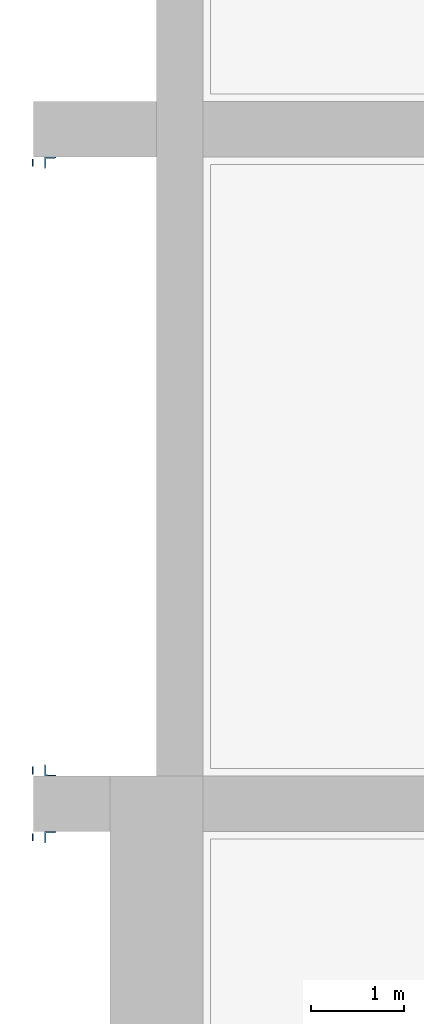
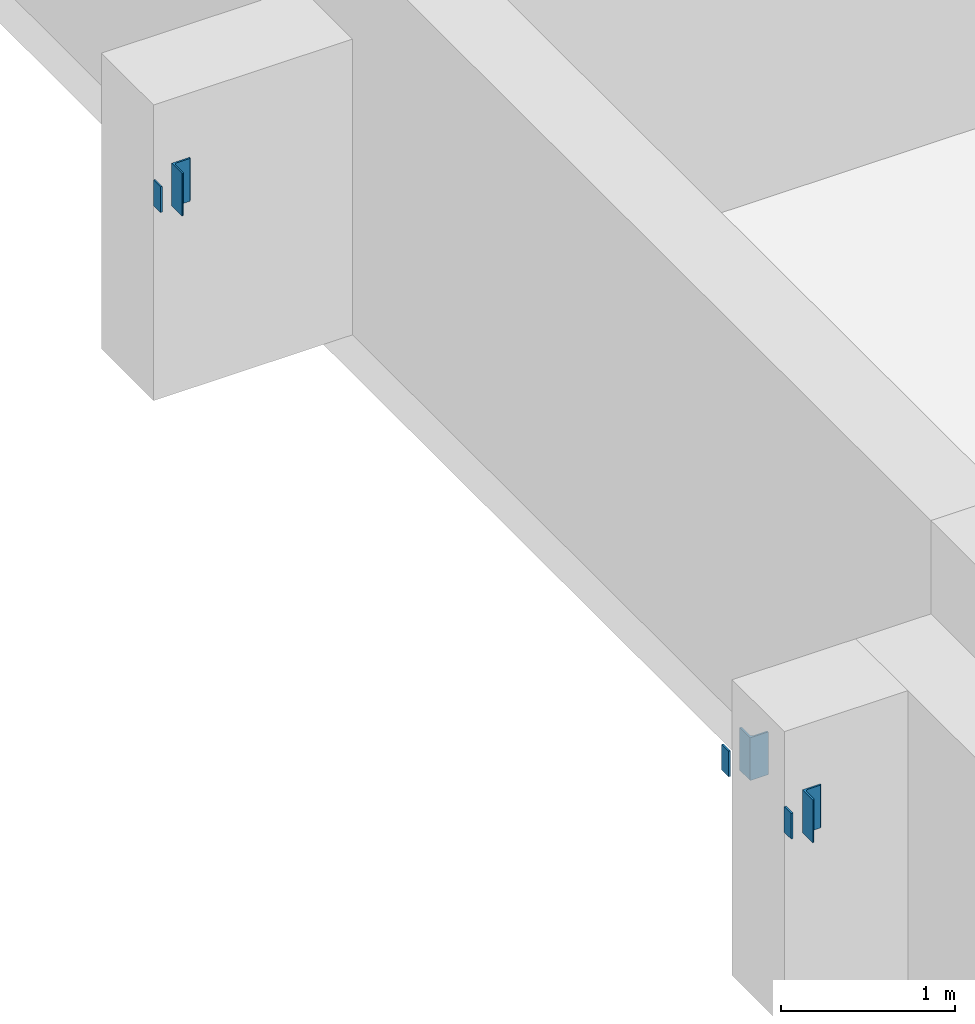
# One storey, part 8 of 22: 6 columns.
"""IFC2X3 building model written with IfcOpenShell, lengths in millimetres."""

from ifc_helpers import new_model, entity, si_unit, converted_unit, derived_unit, direction, frame, frame_2d, origin, origin_2d_with_axis, place, context, subcontext, project, spatial, polyline, circle_curve, parameter, trimmed, segment, composite_curve, rectangle, outline, extrude, source, transform, mapped, material, type_object, type_shapes, element, save


model = new_model("IFC2X3")

# Units and contexts
model_context = context("Model", 3, precision=0.01, world=origin(), true_north=direction((6.12303176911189e-17, 1.0)))
body_context = subcontext(model_context, "Body", "Model", "MODEL_VIEW")
ifc_project = project(units=[si_unit("LENGTHUNIT", "METRE", prefix="MILLI"), si_unit("AREAUNIT", "SQUARE_METRE"), si_unit("VOLUMEUNIT", "CUBIC_METRE"), converted_unit("PLANEANGLEUNIT", "DEGREE", entity("IfcRatioMeasure", 0.0174532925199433), si_unit("PLANEANGLEUNIT", "RADIAN"), dimensions=[0, 0, 0, 0, 0, 0, 0]), si_unit("MASSUNIT", "GRAM", prefix="KILO"), derived_unit("MASSDENSITYUNIT", [(si_unit("MASSUNIT", "GRAM", prefix="KILO"), 1), (si_unit("LENGTHUNIT", "METRE"), -3)]), si_unit("TIMEUNIT", "SECOND"), si_unit("FREQUENCYUNIT", "HERTZ"), si_unit("THERMODYNAMICTEMPERATUREUNIT", "DEGREE_CELSIUS"), derived_unit("THERMALTRANSMITTANCEUNIT", [(si_unit("MASSUNIT", "GRAM", prefix="KILO"), 1), (si_unit("THERMODYNAMICTEMPERATUREUNIT", "KELVIN"), -1), (si_unit("TIMEUNIT", "SECOND"), -3)]), derived_unit("VOLUMETRICFLOWRATEUNIT", [(si_unit("LENGTHUNIT", "METRE"), 3), (si_unit("TIMEUNIT", "SECOND"), -1)]), si_unit("ELECTRICCURRENTUNIT", "AMPERE"), si_unit("ELECTRICVOLTAGEUNIT", "VOLT"), si_unit("POWERUNIT", "WATT"), si_unit("FORCEUNIT", "NEWTON", prefix="KILO"), si_unit("ILLUMINANCEUNIT", "LUX"), si_unit("LUMINOUSFLUXUNIT", "LUMEN"), si_unit("LUMINOUSINTENSITYUNIT", "CANDELA"), derived_unit("USERDEFINED", [(si_unit("MASSUNIT", "GRAM", prefix="KILO"), -1), (si_unit("LENGTHUNIT", "METRE"), -2), (si_unit("TIMEUNIT", "SECOND"), 3), (si_unit("LUMINOUSFLUXUNIT", "LUMEN"), 1)]), derived_unit("LINEARVELOCITYUNIT", [(si_unit("LENGTHUNIT", "METRE"), 1), (si_unit("TIMEUNIT", "SECOND"), -1)]), si_unit("PRESSUREUNIT", "PASCAL"), derived_unit("USERDEFINED", [(si_unit("LENGTHUNIT", "METRE"), -2), (si_unit("MASSUNIT", "GRAM", prefix="KILO"), 1), (si_unit("TIMEUNIT", "SECOND"), -2)])], contexts=[model_context])

# Site, building, storey
site_placement = place(None, origin())
site = spatial("IfcSite", under=ifc_project, at=site_placement, Name="Default", CompositionType="ELEMENT")
building_placement = place(site_placement, origin())
building = spatial("IfcBuilding", under=site, at=building_placement, Name="niet gebruiken", CompositionType="ELEMENT")
storey_placement = place(building_placement, frame((0.0, 0.0, 15000.0)))
storey = spatial("IfcBuildingStorey", under=building, at=storey_placement, Name="04 vierde verdieping", CompositionType="ELEMENT", Elevation=15000.0)

# Columns
ifc_material = material(Name="NLRS_h2_staal")
column_type_1 = type_object("IfcColumnType", Name="kolomgelijzijdig hoekprofiel LEQU_120x120x12_!", PredefinedType="COLUMN", material=ifc_material)
shared_shape_1 = source(origin(), body_context, "Body", "SweptSolid", [
    extrude(outline(composite_curve([segment(polyline([(-74.6666666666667, -45.3333333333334), (45.3333333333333, -45.3333333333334)]), True, "CONTINUOUS"), segment(polyline([(45.3333333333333, -45.3333333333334), (45.3333333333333, 74.6666666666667)]), True, "CONTINUOUS"), segment(polyline([(45.3333333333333, 74.6666666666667), (41.3333333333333, 74.6666666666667)]), True, "CONTINUOUS"), segment(trimmed(circle_curve(frame_2d((41.3333333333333, 66.6666666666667), x_axis=(0.0, 1.0)), 8.0), [parameter(0.0)], [parameter(90.0)], True, "PARAMETER"), True, "CONTINUOUS"), segment(polyline([(33.3333333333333, 66.6666666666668), (33.3333333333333, -17.3333333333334)]), True, "CONTINUOUS"), segment(trimmed(circle_curve(frame_2d((17.3333333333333, -17.3333333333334), x_axis=(1.0, 0.0)), 16.0), [parameter(270.0)], [parameter(0.0)], True, "PARAMETER"), False, "CONTINUOUS"), segment(polyline([(17.3333333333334, -33.3333333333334), (-66.6666666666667, -33.3333333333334)]), True, "CONTINUOUS"), segment(trimmed(circle_curve(frame_2d((-66.6666666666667, -41.3333333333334), x_axis=(0.0, 1.0)), 7.99999999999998), [parameter(0.0)], [parameter(90.0000000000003)], True, "PARAMETER"), True, "CONTINUOUS"), segment(polyline([(-74.6666666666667, -41.3333333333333), (-74.6666666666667, -45.3333333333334)]), True, "CONTINUOUS")], self_intersect=False)), frame((32.8333333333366, 32.8333333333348, 16235.0), z_axis=(0.0, 0.0, 1.0), x_axis=(0.0, -1.0, 0.0)), (0.0, 0.0, 1.0), 300.00000000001),
])
type_shapes(column_type_1, [shared_shape_1])
column_1_placement = place(storey_placement, frame((124832.499999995, 17812.500000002, -15000.0)))
element("IfcColumn", 1, at=column_1_placement, inside=storey, type_object=column_type_1, material=ifc_material, Name="NLRS_28.11_SCO_TLB_stalen kolom hoekprofiel gelijkzijdig_gen:kolomgelijzijdig hoekprofiel LEQU_120x120x12_!", ObjectType="kolomgelijzijdig hoekprofiel LEQU_120x120x12_!", context=body_context, shape_type="MappedRepresentation", body=[
    mapped(shared_shape_1, transform((0.0, 0.0, 0.0), scale=1.0)),
])
column_type_2 = type_object("IfcColumnType", Name="kolomgelijzijdig hoekprofiel LEQU_120x120x12_!", PredefinedType="COLUMN", material=ifc_material)
shared_shape_2 = source(origin(), body_context, "Body", "SweptSolid", [
    extrude(outline(composite_curve([segment(polyline([(-45.3333333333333, -45.3333333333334), (74.6666666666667, -45.3333333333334)]), True, "CONTINUOUS"), segment(polyline([(74.6666666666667, -45.3333333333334), (74.6666666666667, -41.3333333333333)]), True, "CONTINUOUS"), segment(trimmed(circle_curve(frame_2d((66.6666666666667, -41.3333333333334), x_axis=(1.0, 0.0)), 7.99999999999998), [parameter(0.0)], [parameter(90.0000000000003)], True, "PARAMETER"), True, "CONTINUOUS"), segment(polyline([(66.6666666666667, -33.3333333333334), (-17.3333333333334, -33.3333333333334)]), True, "CONTINUOUS"), segment(trimmed(circle_curve(frame_2d((-17.3333333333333, -17.3333333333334), x_axis=(0.0, -1.0)), 16.0), [parameter(270.0)], [parameter(0.0)], True, "PARAMETER"), False, "CONTINUOUS"), segment(polyline([(-33.3333333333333, -17.3333333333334), (-33.3333333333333, 66.6666666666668)]), True, "CONTINUOUS"), segment(trimmed(circle_curve(frame_2d((-41.3333333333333, 66.6666666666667), x_axis=(1.0, 0.0)), 8.0), [parameter(0.0)], [parameter(90.0)], True, "PARAMETER"), True, "CONTINUOUS"), segment(polyline([(-41.3333333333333, 74.6666666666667), (-45.3333333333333, 74.6666666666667)]), True, "CONTINUOUS"), segment(polyline([(-45.3333333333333, 74.6666666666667), (-45.3333333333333, -45.3333333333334)]), True, "CONTINUOUS")], self_intersect=False)), frame((32.8333333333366, -32.8333333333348, 16235.0), z_axis=(0.0, 0.0, 1.0), x_axis=(0.0, -1.0, 0.0)), (0.0, 0.0, 1.0), 300.00000000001),
])
type_shapes(column_type_2, [shared_shape_2])
for number, where in (
    (2, (124832.499999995, 17187.4999999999, -15000.0)),
    (3, (124832.499999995, 24437.4999999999, -15000.0)),
):
    element("IfcColumn", number, at=place(storey_placement, frame(where)), inside=storey, type_object=column_type_2, material=ifc_material, Name="NLRS_28.11_SCO_TLB_stalen kolom hoekprofiel gelijkzijdig_gen:kolomgelijzijdig hoekprofiel LEQU_120x120x12_!", ObjectType="kolomgelijzijdig hoekprofiel LEQU_120x120x12_!", context=body_context, shape_type="MappedRepresentation", body=[
        mapped(shared_shape_2, transform((0.0, 0.0, 0.0), scale=1.0)),
    ])
column_type_3 = type_object("IfcColumnType", Name="kolom stripstaal RECT_80x12", PredefinedType="COLUMN", material=ifc_material)
shared_shape_3 = source(origin(), body_context, "Body", "SweptSolid", [
    extrude(rectangle(XDim=79.9999999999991, YDim=11.9999999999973, at=origin_2d_with_axis()), frame((124694.0, 17140.0, 16295.0), z_axis=(0.0, 0.0, 1.0), x_axis=(0.0, -1.0, 0.0)), (0.0, 0.0, 1.0), 180.000000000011),
])
type_shapes(column_type_3, [shared_shape_3])
column_2_placement = place(storey_placement, frame((0.0, 0.0, -15000.0)))
element("IfcColumn", 4, at=column_2_placement, inside=storey, type_object=column_type_3, material=ifc_material, Name="NLRS_28.11_SCO_TLB_stalen kolom stripstaal_gen:kolom stripstaal RECT_80x12", ObjectType="kolom stripstaal RECT_80x12", context=body_context, shape_type="MappedRepresentation", body=[
    mapped(shared_shape_3, transform((0.0, 0.0, 0.0), scale=1.0)),
])
column_type_4 = type_object("IfcColumnType", Name="kolom stripstaal RECT_80x12", PredefinedType="COLUMN", material=ifc_material)
shared_shape_4 = source(origin(), body_context, "Body", "SweptSolid", [
    extrude(rectangle(XDim=79.9999999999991, YDim=11.9999999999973, at=frame_2d((2.16715534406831e-12, 0.0), x_axis=(1.0, 0.0))), frame((124694.0, 24390.0, 16295.0), z_axis=(0.0, 0.0, 1.0), x_axis=(0.0, -1.0, 0.0)), (0.0, 0.0, 1.0), 180.000000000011),
])
type_shapes(column_type_4, [shared_shape_4])
column_3_placement = place(storey_placement, frame((0.0, 0.0, -15000.0)))
element("IfcColumn", 5, at=column_3_placement, inside=storey, type_object=column_type_4, material=ifc_material, Name="NLRS_28.11_SCO_TLB_stalen kolom stripstaal_gen:kolom stripstaal RECT_80x12", ObjectType="kolom stripstaal RECT_80x12", context=body_context, shape_type="MappedRepresentation", body=[
    mapped(shared_shape_4, transform((0.0, 0.0, 0.0), scale=1.0)),
])
column_type_5 = type_object("IfcColumnType", Name="kolom stripstaal RECT_80x12", PredefinedType="COLUMN", material=ifc_material)
shared_shape_5 = source(origin(), body_context, "Body", "SweptSolid", [
    extrude(rectangle(XDim=79.9999999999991, YDim=11.9999999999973, at=origin_2d_with_axis()), frame((124694.0, 17860.0, 16295.0), z_axis=(0.0, 0.0, 1.0), x_axis=(0.0, -1.0, 0.0)), (0.0, 0.0, 1.0), 180.000000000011),
])
type_shapes(column_type_5, [shared_shape_5])
column_4_placement = place(storey_placement, frame((0.0, 0.0, -15000.0)))
element("IfcColumn", 6, at=column_4_placement, inside=storey, type_object=column_type_5, material=ifc_material, Name="NLRS_28.11_SCO_TLB_stalen kolom stripstaal_gen:kolom stripstaal RECT_80x12", ObjectType="kolom stripstaal RECT_80x12", context=body_context, shape_type="MappedRepresentation", body=[
    mapped(shared_shape_5, transform((0.0, 0.0, 0.0), scale=1.0)),
])

save(model, "model.ifc")
